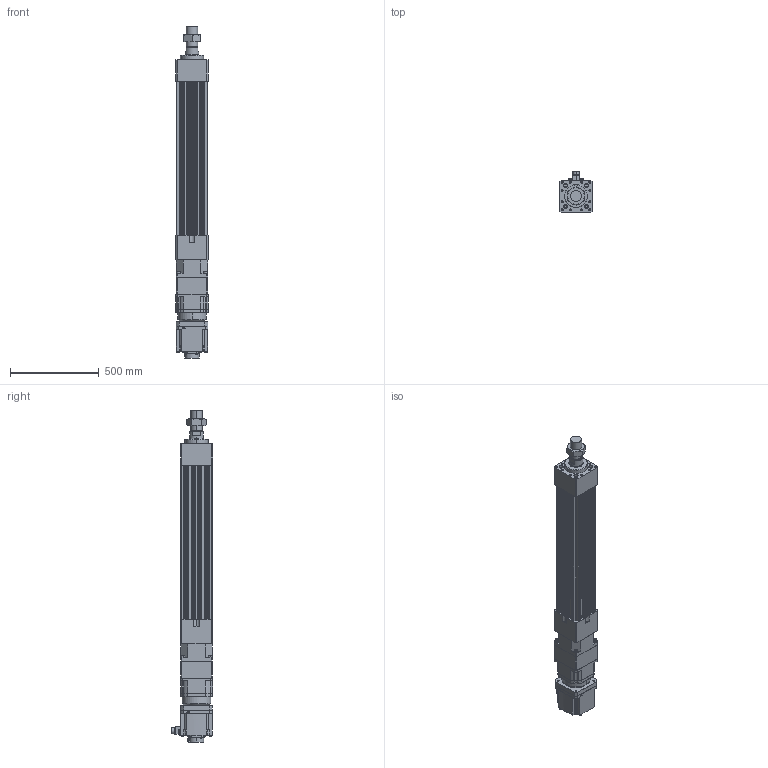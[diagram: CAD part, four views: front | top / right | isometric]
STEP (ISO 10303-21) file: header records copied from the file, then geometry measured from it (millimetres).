
FILE_DESCRIPTION (( 'STEP AP203' ), '1' );
FILE_NAME ('HES180HS-S550-W050G00-M.STEP', '2023-02-01T09:49:25', ( 'tms' ), ( '' ), 'SwSTEP 2.0', 'SolidWorks 2013', '' );
FILE_SCHEMA (( 'CONFIG_CONTROL_DESIGN' ));
Length unit declared in the file: millimetre
Products named in the file (9): HES180 ROD M ST550; HES180-S550-G180; AB180-003[HG-SR702B]; HES180HS-S550-W050G00-M; P1301600001; AB1801; P0403600401; M64X2.0P; HG-SR502
Assembly tree (8 placements, depth 3):
  HES180HS-S550-W050G00-M
    HES180-S550-G180
    HES180 ROD M ST550
    M64X2.0P
    AB180-003[HG-SR702B]
      AB1801
      P1301600001
      P0403600401
    HG-SR502
Bounding box: 180 x 230.85 x 1867 mm (x, y, z)
Volume: 27659762.2 mm3; surface area: 2625427.6 mm2
Topology: 4 solids, 23 shells, 1534 faces, 3945 edges, 2546 vertices
Faces by surface type: cylinder 693, plane 600, cone 174, bspline 63, torus 4
Entity records: 55246 total; most frequent: CARTESIAN_POINT 16431, DIRECTION 8177, ORIENTED_EDGE 7750, EDGE_CURVE 3899, AXIS2_PLACEMENT_3D 3072, VERTEX_POINT 2546, VECTOR 2033, LINE 2033
